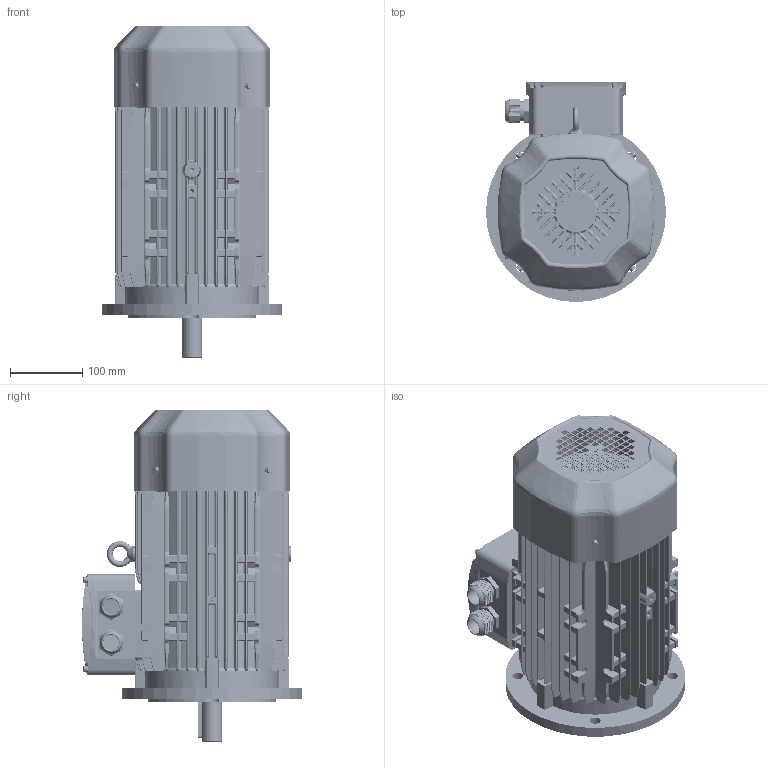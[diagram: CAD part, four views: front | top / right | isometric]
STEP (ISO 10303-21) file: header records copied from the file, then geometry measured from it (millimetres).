
FILE_DESCRIPTION (( 'STEP AP214' ), '1' );
FILE_NAME ('IE3-112-B5.STEP', '2015-05-24T06:05:21', ( '微软用户' ), ( '微软中国' ), 'SwSTEP 2.0', 'SolidWorks 2014', '' );
FILE_SCHEMA (( 'AUTOMOTIVE_DESIGN' ));
Length unit declared in the file: millimetre
Products named in the file (1): IE3-112-B5
Bounding box: 250 x 305.53 x 461 mm (x, y, z)
Volume: 10421910.9 mm3; surface area: 1058241.5 mm2
Topology: 20 solids, 29 shells, 6916 faces, 17683 edges, 10840 vertices
Faces by surface type: plane 2503, cylinder 2472, bspline 1101, torus 448, cone 290, sphere 102
Entity records: 319855 total; most frequent: CARTESIAN_POINT 88691, ORIENTED_EDGE 35122, DIRECTION 29316, EDGE_CURVE 17561, VERTEX_POINT 10825, AXIS2_PLACEMENT_3D 10728, LINE 7860, VECTOR 7860
